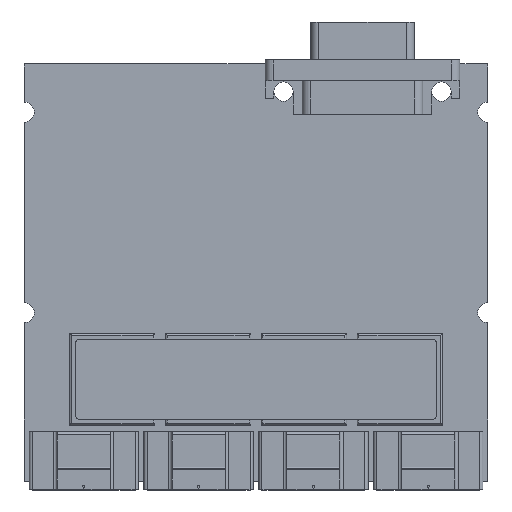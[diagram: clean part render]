
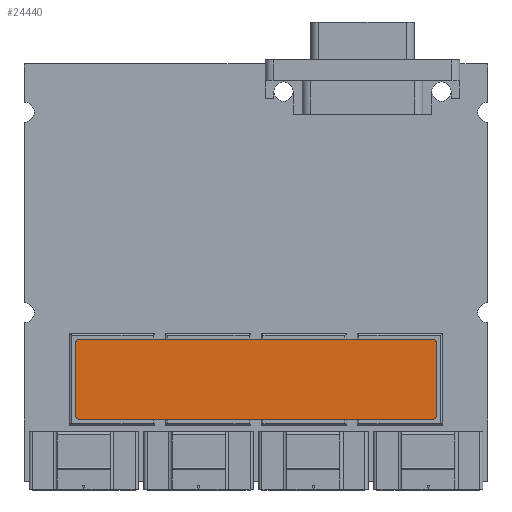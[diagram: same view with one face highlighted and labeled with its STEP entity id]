
A CAD part, top view. The second image highlights one B-rep face of the part: STEP entity #24440.
In plain terms, the highlighted planar face has unit normal (0, 0, 1).
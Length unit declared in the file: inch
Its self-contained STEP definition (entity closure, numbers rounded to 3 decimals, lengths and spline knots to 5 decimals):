
#8805=CARTESIAN_POINT('',(1.1,-0.4405,0.262));
#8806=DIRECTION('',(0.,0.,1.));
#8807=DIRECTION('',(1.,0.,0.));
#8808=AXIS2_PLACEMENT_3D('',#8805,#8806,#8807);
#8810=DIRECTION('',(0.,1.,0.));
#8811=VECTOR('',#8810,0.45);
#8812=CARTESIAN_POINT('',(1.125,-0.8905,0.262));
#8813=LINE('',#8812,#8811);
#8814=CARTESIAN_POINT('',(1.1,-0.8905,0.262));
#8815=DIRECTION('',(0.,0.,1.));
#8816=DIRECTION('',(0.,-1.,0.));
#8817=AXIS2_PLACEMENT_3D('',#8814,#8815,#8816);
#8819=DIRECTION('',(1.,0.,0.));
#8820=VECTOR('',#8819,2.2);
#8821=CARTESIAN_POINT('',(-1.1,-0.9155,0.262));
#8822=LINE('',#8821,#8820);
#8823=CARTESIAN_POINT('',(-1.1,-0.8905,0.262));
#8824=DIRECTION('',(0.,0.,1.));
#8825=DIRECTION('',(-1.,0.,0.));
#8826=AXIS2_PLACEMENT_3D('',#8823,#8824,#8825);
#8828=DIRECTION('',(0.,-1.,0.));
#8829=VECTOR('',#8828,0.45);
#8830=CARTESIAN_POINT('',(-1.125,-0.4405,0.262));
#8831=LINE('',#8830,#8829);
#8832=CARTESIAN_POINT('',(-1.1,-0.4405,0.262));
#8833=DIRECTION('',(0.,0.,1.));
#8834=DIRECTION('',(0.,1.,0.));
#8835=AXIS2_PLACEMENT_3D('',#8832,#8833,#8834);
#8837=DIRECTION('',(-1.,0.,0.));
#8838=VECTOR('',#8837,2.2);
#8839=CARTESIAN_POINT('',(1.1,-0.4155,0.262));
#8840=LINE('',#8839,#8838);
#12505=CARTESIAN_POINT('',(1.125,-0.4405,0.262));
#12506=CARTESIAN_POINT('',(1.1,-0.4155,0.262));
#12507=VERTEX_POINT('',#12505);
#12508=VERTEX_POINT('',#12506);
#12509=CARTESIAN_POINT('',(1.1,-0.9155,0.262));
#12510=CARTESIAN_POINT('',(1.125,-0.8905,0.262));
#12511=VERTEX_POINT('',#12509);
#12512=VERTEX_POINT('',#12510);
#12513=CARTESIAN_POINT('',(-1.125,-0.8905,0.262));
#12514=CARTESIAN_POINT('',(-1.1,-0.9155,0.262));
#12515=VERTEX_POINT('',#12513);
#12516=VERTEX_POINT('',#12514);
#12517=CARTESIAN_POINT('',(-1.1,-0.4155,0.262));
#12518=CARTESIAN_POINT('',(-1.125,-0.4405,0.262));
#12519=VERTEX_POINT('',#12517);
#12520=VERTEX_POINT('',#12518);
#24421=CARTESIAN_POINT('',(0.,-0.6655,0.262));
#24422=DIRECTION('',(0.,0.,1.));
#24423=DIRECTION('',(1.,0.,0.));
#24424=AXIS2_PLACEMENT_3D('',#24421,#24422,#24423);
#24425=PLANE('',#24424);
#24427=ORIENTED_EDGE('',*,*,#24426,.F.);
#24429=ORIENTED_EDGE('',*,*,#24428,.F.);
#24431=ORIENTED_EDGE('',*,*,#24430,.F.);
#24432=ORIENTED_EDGE('',*,*,#24200,.F.);
#24434=ORIENTED_EDGE('',*,*,#24433,.F.);
#24435=ORIENTED_EDGE('',*,*,#24401,.F.);
#24436=ORIENTED_EDGE('',*,*,#24415,.F.);
#24437=ORIENTED_EDGE('',*,*,#24139,.F.);
#24438=EDGE_LOOP('',(#24427,#24429,#24431,#24432,#24434,#24435,#24436,#24437));
#24439=FACE_OUTER_BOUND('',#24438,.F.);
#24440=ADVANCED_FACE('',(#24439),#24425,.T.);
#8809=CIRCLE('',#8808,0.025);
#8818=CIRCLE('',#8817,0.025);
#8827=CIRCLE('',#8826,0.025);
#8836=CIRCLE('',#8835,0.025);
#24139=EDGE_CURVE('',#12508,#12519,#8840,.T.);
#24200=EDGE_CURVE('',#12516,#12511,#8822,.T.);
#24401=EDGE_CURVE('',#12520,#12515,#8831,.T.);
#24415=EDGE_CURVE('',#12519,#12520,#8836,.T.);
#24426=EDGE_CURVE('',#12507,#12508,#8809,.T.);
#24428=EDGE_CURVE('',#12512,#12507,#8813,.T.);
#24430=EDGE_CURVE('',#12511,#12512,#8818,.T.);
#24433=EDGE_CURVE('',#12515,#12516,#8827,.T.);
